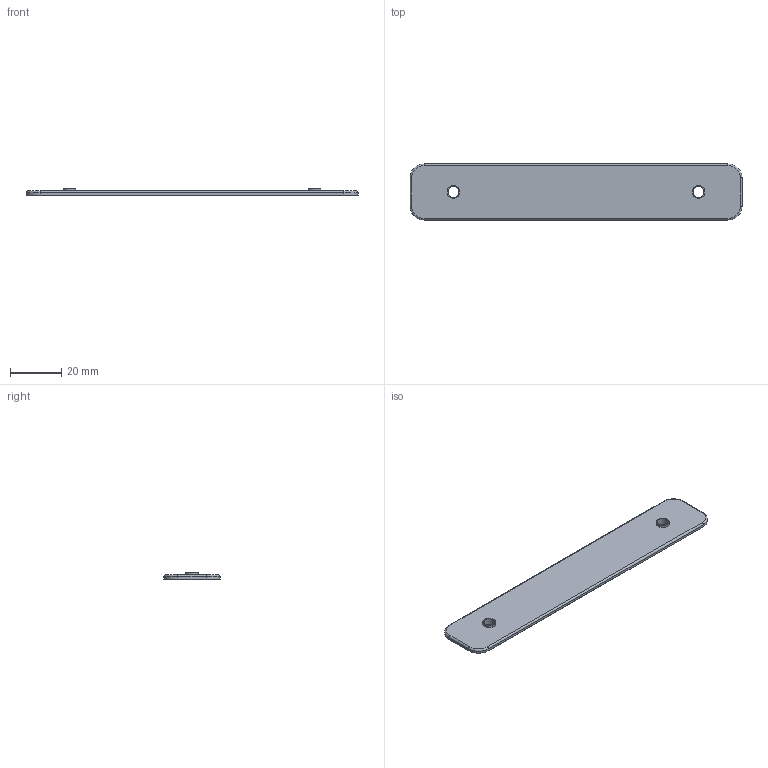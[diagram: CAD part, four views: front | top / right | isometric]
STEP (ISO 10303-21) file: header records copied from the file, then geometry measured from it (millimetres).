
FILE_DESCRIPTION(('Open CASCADE Model'),'2;1');
FILE_NAME('W-BAR-WL96-22','2026-10-19T21:23:52',('Author'),( 'Open CASCADE'),'Open CASCADE STEP processor 8.0','build123d', 'Unknown');
FILE_SCHEMA(('AUTOMOTIVE_DESIGN { 1 0 10303 214 1 1 1 1 }'));
Length unit declared in the file: millimetre
Products named in the file (2): W-BAR-WL96-22; brass_WL96-22__w
Assembly tree (1 placements, depth 2):
  W-BAR-WL96-22
    brass_WL96-22__w
Bounding box: 130 x 22 x 2.79 mm (x, y, z)
Volume: 5022.4 mm3; surface area: 6123.4 mm2
Topology: 1 solids, 1 shells, 32 faces, 68 edges, 40 vertices
Faces by surface type: plane 12, cylinder 12, cone 4, torus 4
Full cylindrical faces by diameter (mm): 4.3 x2, 5 x2
Entity records: 1768 total; most frequent: CARTESIAN_POINT 358, DIRECTION 264, ORIENTED_EDGE 136, PCURVE 136, DEFINITIONAL_REPRESENTATION 136, LINE 124, VECTOR 124, EDGE_CURVE 68
